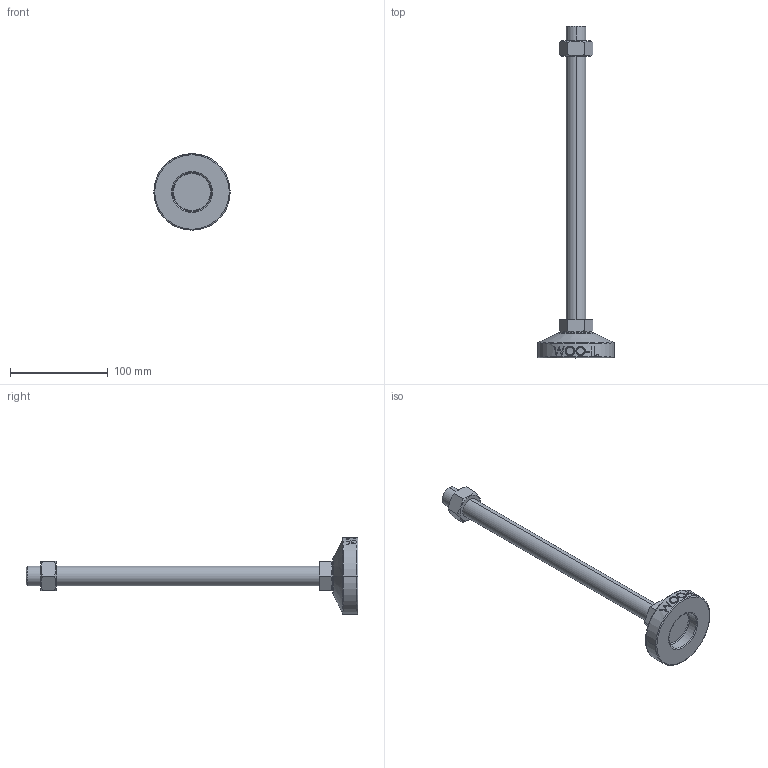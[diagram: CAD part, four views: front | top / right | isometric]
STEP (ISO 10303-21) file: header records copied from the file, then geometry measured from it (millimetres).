
FILE_DESCRIPTION (( 'STEP AP214' ), '1' );
FILE_NAME ('MFZ78-M20-300.step', '2021-01-15T07:09:12', ( '' ), ( '' ), 'SwSTEP 2.0', 'SolidWorks 2019', '' );
FILE_SCHEMA (( 'AUTOMOTIVE_DESIGN' ));
Length unit declared in the file: millimetre
Products named in the file (2): MFZ78-M20-300
Bounding box: 78 x 339 x 78 mm (x, y, z)
Volume: 198679.1 mm3; surface area: 40184.9 mm2
Topology: 3 solids, 3 shells, 106 faces, 243 edges, 154 vertices
Faces by surface type: plane 48, cylinder 18, bspline 16, cone 14, torus 10
Entity records: 4596 total; most frequent: CARTESIAN_POINT 2253, ORIENTED_EDGE 486, DIRECTION 439, EDGE_CURVE 243, AXIS2_PLACEMENT_3D 170, VERTEX_POINT 154, EDGE_LOOP 119, ADVANCED_FACE 106
